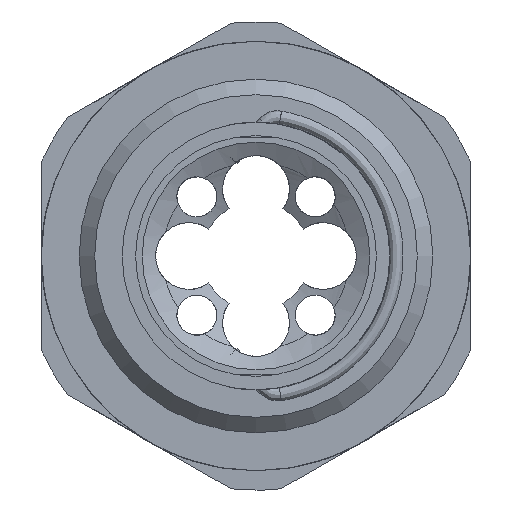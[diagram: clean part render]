
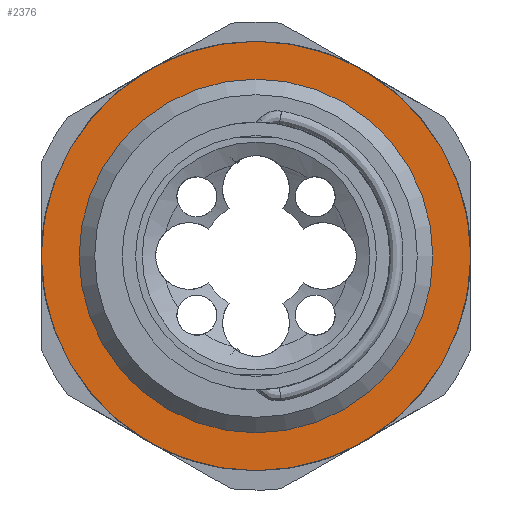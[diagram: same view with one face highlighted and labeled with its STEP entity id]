
A CAD part, front view. The second image highlights one B-rep face of the part: STEP entity #2376.
In plain terms, the highlighted planar face has unit normal (0, -1, 0).
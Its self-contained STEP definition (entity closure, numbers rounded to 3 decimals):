
#36=PLANE('',#2518);
#368=ORIENTED_EDGE('',*,*,#810,.F.);
#369=ORIENTED_EDGE('',*,*,#803,.T.);
#803=EDGE_CURVE('',#1021,#1021,#1138,.T.);
#810=EDGE_CURVE('',#1022,#1022,#1145,.T.);
#1021=VERTEX_POINT('',#3617);
#1022=VERTEX_POINT('',#3626);
#1138=CIRCLE('',#2511,16.05);
#1145=CIRCLE('',#2519,13.221);
#1266=EDGE_LOOP('',(#368));
#1267=EDGE_LOOP('',(#369));
#1453=FACE_BOUND('',#1266,.T.);
#1454=FACE_BOUND('',#1267,.T.);
#2376=ADVANCED_FACE('',(#1453,#1454),#36,.F.);
#2511=AXIS2_PLACEMENT_3D('',#3616,#2800,#2801);
#2518=AXIS2_PLACEMENT_3D('',#3624,#2814,#2815);
#2519=AXIS2_PLACEMENT_3D('',#3625,#2816,#2817);
#2800=DIRECTION('',(0.,-1.,0.));
#2801=DIRECTION('',(0.,0.,-1.));
#2814=DIRECTION('',(0.,1.,0.));
#2815=DIRECTION('',(0.,0.,1.));
#2816=DIRECTION('',(0.,-1.,0.));
#2817=DIRECTION('',(0.,0.,-1.));
#3616=CARTESIAN_POINT('',(0.,9.,0.));
#3617=CARTESIAN_POINT('',(0.,9.,-16.05));
#3624=CARTESIAN_POINT('',(16.05,9.,0.));
#3625=CARTESIAN_POINT('',(0.,9.,0.));
#3626=CARTESIAN_POINT('',(0.,9.,-13.221));
